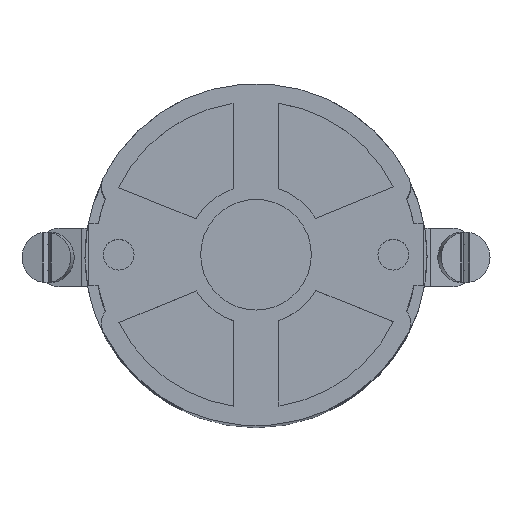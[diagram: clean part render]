
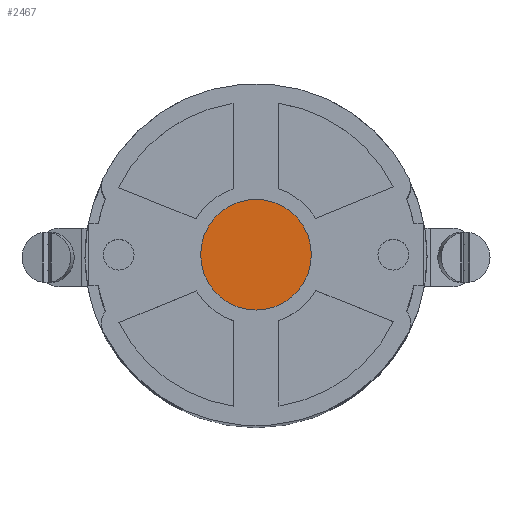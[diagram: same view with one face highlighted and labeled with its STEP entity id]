
A CAD part, top view. The second image highlights one B-rep face of the part: STEP entity #2467.
In plain terms, the highlighted planar face has unit normal (0, 0, 1).
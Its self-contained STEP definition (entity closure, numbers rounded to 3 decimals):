
#2467=ADVANCED_FACE('',(#5334),#3953,.T.);
#3953=PLANE('',#31645);
#5334=FACE_OUTER_BOUND('',#6800,.T.);
#6800=EDGE_LOOP('',(#18568));
#18568=ORIENTED_EDGE('',*,*,#27918,.F.);
#24029=VERTEX_POINT('',#48217);
#27918=EDGE_CURVE('',#24029,#24029,#29717,.T.);
#29717=CIRCLE('',#31644,6.15);
#31644=AXIS2_PLACEMENT_3D('',#48216,#37868,#37869);
#31645=AXIS2_PLACEMENT_3D('',#48218,#37870,#37871);
#37868=DIRECTION('',(0.,0.,-1.));
#37869=DIRECTION('',(1.,0.,0.));
#37870=DIRECTION('',(0.,0.,1.));
#37871=DIRECTION('',(1.,0.,0.));
#48216=CARTESIAN_POINT('',(0.,0.,118.1));
#48217=CARTESIAN_POINT('',(6.15,0.,118.1));
#48218=CARTESIAN_POINT('',(0.,0.,118.1));
